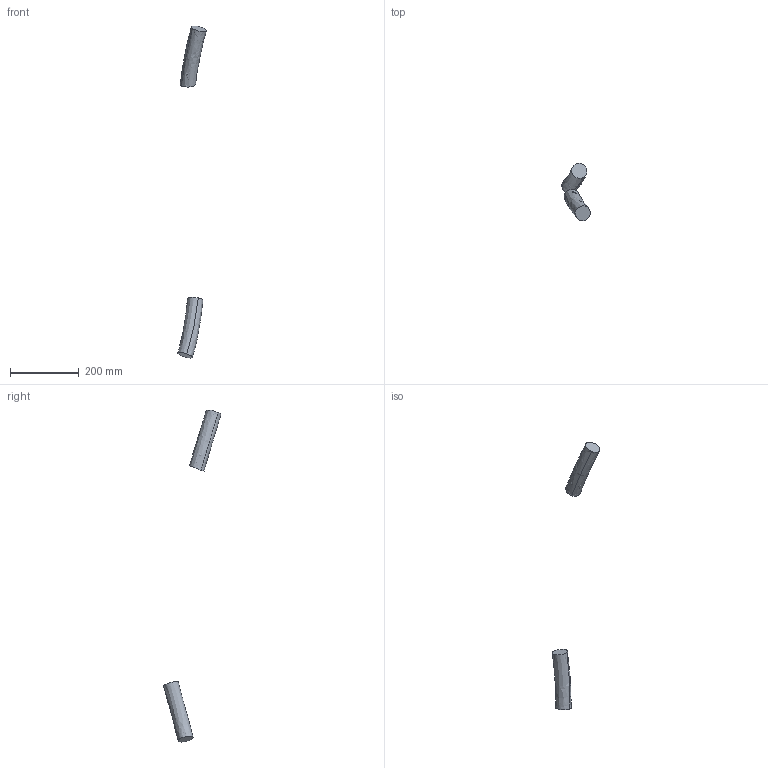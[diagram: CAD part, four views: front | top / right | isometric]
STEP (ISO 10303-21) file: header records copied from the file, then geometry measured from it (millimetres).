
FILE_DESCRIPTION (( 'STEP AP214' ), '1' );
FILE_NAME ('IRB5710-MH3_90kg-270_OmniCore_rev00_LINK02m_CABLE.step', '2025-07-08T11:35:48', ( '' ), ( '' ), 'SwSTEP 2.0', 'SolidWorks 2024', '' );
FILE_SCHEMA (( 'AUTOMOTIVE_DESIGN' ));
Length unit declared in the file: millimetre
Products named in the file (1): IRB5710-MH3_90kg-270_OmniCore_rev00_LINK02m_CABLE
Bounding box: 82.74 x 167.63 x 964.16 mm (x, y, z)
Volume: 540073 mm3; surface area: 54493.3 mm2
Topology: 2 solids, 2 shells, 8 faces, 12 edges, 8 vertices
Faces by surface type: bspline 4, plane 4
Entity records: 1591 total; most frequent: CARTESIAN_POINT 1352, ORIENTED_EDGE 24, DIRECTION 18, EDGE_CURVE 12, UNCERTAINTY_MEASURE_WITH_UNIT 11, SURFACE_STYLE_FILL_AREA 10, STYLED_ITEM 10, SURFACE_SIDE_STYLE 10
